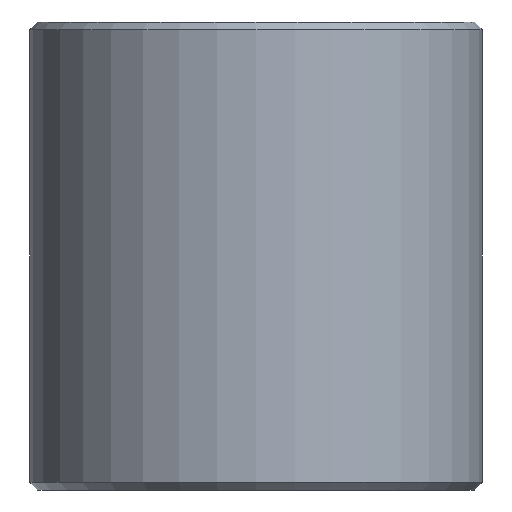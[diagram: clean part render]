
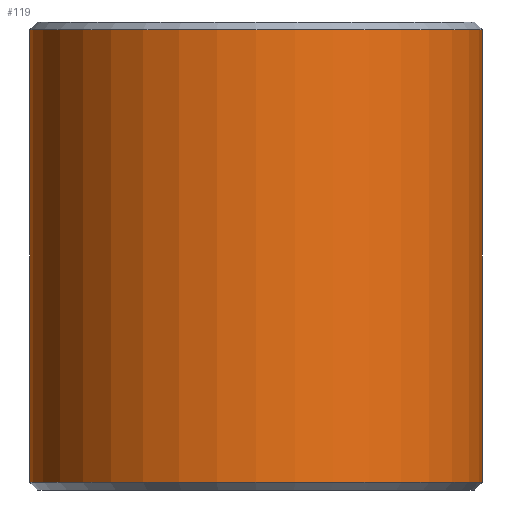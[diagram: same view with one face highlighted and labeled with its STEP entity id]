
A CAD part, front view. The second image highlights one B-rep face of the part: STEP entity #119.
In plain terms, the highlighted cylindrical face has radius 14.5 mm (diameter 29 mm), a full revolution.
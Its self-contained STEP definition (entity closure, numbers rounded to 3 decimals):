
#20=CYLINDRICAL_SURFACE('',#148,14.5);
#27=FACE_OUTER_BOUND('',#37,.T.);
#37=EDGE_LOOP('',(#101,#102,#103,#104));
#43=LINE('',#219,#49);
#49=VECTOR('',#187,14.5);
#57=CIRCLE('',#147,14.5);
#58=CIRCLE('',#149,14.5);
#65=VERTEX_POINT('',#213);
#66=VERTEX_POINT('',#217);
#77=EDGE_CURVE('',#65,#65,#57,.T.);
#78=EDGE_CURVE('',#66,#66,#58,.T.);
#79=EDGE_CURVE('',#66,#65,#43,.T.);
#101=ORIENTED_EDGE('',*,*,#78,.F.);
#102=ORIENTED_EDGE('',*,*,#79,.T.);
#103=ORIENTED_EDGE('',*,*,#77,.F.);
#104=ORIENTED_EDGE('',*,*,#79,.F.);
#119=ADVANCED_FACE('',(#27),#20,.T.);
#147=AXIS2_PLACEMENT_3D('',#215,#181,#182);
#148=AXIS2_PLACEMENT_3D('',#216,#183,#184);
#149=AXIS2_PLACEMENT_3D('',#218,#185,#186);
#181=DIRECTION('center_axis',(0.,0.,-1.));
#182=DIRECTION('ref_axis',(-1.,0.,0.));
#183=DIRECTION('center_axis',(0.,0.,1.));
#184=DIRECTION('ref_axis',(-1.,0.,0.));
#185=DIRECTION('center_axis',(0.,0.,1.));
#186=DIRECTION('ref_axis',(-1.,0.,0.));
#187=DIRECTION('',(0.,0.,-1.));
#213=CARTESIAN_POINT('',(14.5,0.,0.5));
#215=CARTESIAN_POINT('Origin',(0.,0.,0.5));
#216=CARTESIAN_POINT('Origin',(0.,0.,0.));
#217=CARTESIAN_POINT('',(14.5,0.,29.5));
#218=CARTESIAN_POINT('Origin',(0.,0.,29.5));
#219=CARTESIAN_POINT('',(14.5,0.,0.));
